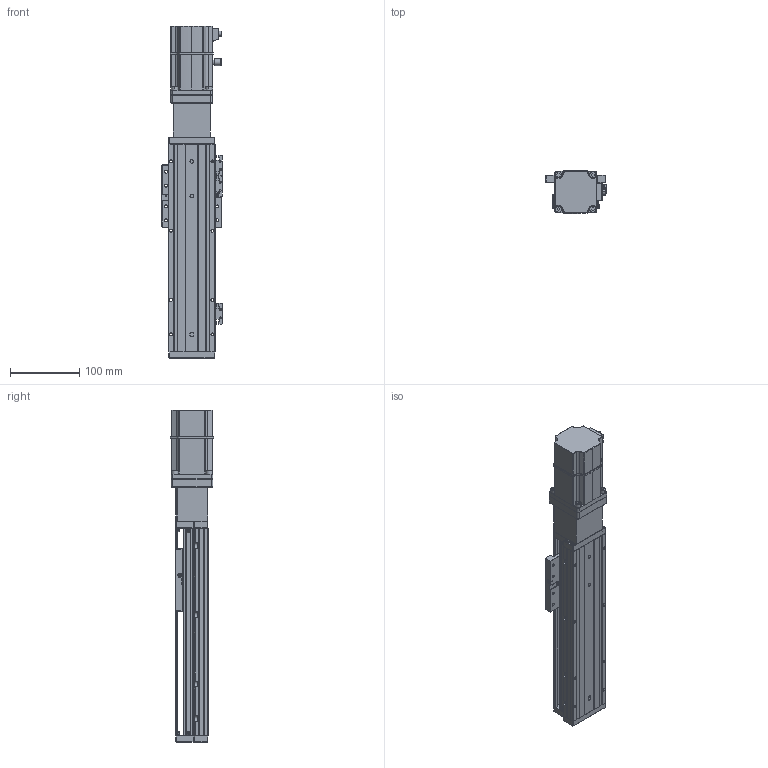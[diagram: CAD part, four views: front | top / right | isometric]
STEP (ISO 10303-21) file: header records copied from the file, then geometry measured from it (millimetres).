
FILE_DESCRIPTION (( 'STEP AP203' ), '1' );
FILE_NAME ('KTHAL60-150-BC-M20-C4L.step', '2022-12-16T01:57:29', ( '微软用户' ), ( '微软中国' ), 'SwSTEP 2.0', 'SolidWorks 2020', '' );
FILE_SCHEMA (( 'CONFIG_CONTROL_DESIGN' ));
Length unit declared in the file: millimetre
Products named in the file (18): CTHA60-013; KTHLA60-002; CTHA60-021; CTHA60-006-3_M20B; KTHA60-004; GBT 70.1-M4×16; _X2_4E0983F1_X0_200W_1; KTHA60-005; GBT77-2000M3-3; KTHAL60-150-BC-M20-C4L; GB¨uT 70.2-M3¡Á5_M3¡Á6; GBT 70.1-M3℅6; GBT 70.3-M3℅6; CTHA60-016; EE_SX911P_R; CTHA60-027; KTHA60-001_300; CTHA60-017
Assembly tree (48 placements, depth 2):
  KTHAL60-150-BC-M20-C4L
    KTHA60-001_300
    KTHLA60-002
    KTHA60-004
    KTHA60-005
    GB¨uT 70.2-M3¡Á5_M3¡Á6  x5
    GBT 70.3-M3℅6  x6
    EE_SX911P_R  x3
    CTHA60-017  x3
    CTHA60-021  x2
    GBT 70.1-M4×16  x8
    GBT77-2000M3-3  x6
    GBT 70.1-M3℅6  x6
    CTHA60-016
    CTHA60-027
    CTHA60-013
    CTHA60-006-3_M20B
    _X2_4E0983F1_X0_200W_1
Bounding box: 87.82 x 62.42 x 479.7 mm (x, y, z)
Volume: 1095957.8 mm3; surface area: 250689.3 mm2
Topology: 51 solids, 51 shells, 2246 faces, 5299 edges, 3241 vertices
Faces by surface type: plane 1213, cylinder 585, cone 287, torus 78, bspline 69, sphere 14
Entity records: 39835 total; most frequent: CARTESIAN_POINT 7718, DIRECTION 6238, ORIENTED_EDGE 5994, EDGE_CURVE 2997, AXIS2_PLACEMENT_3D 2153, LINE 1932, VECTOR 1932, VERTEX_POINT 1863
